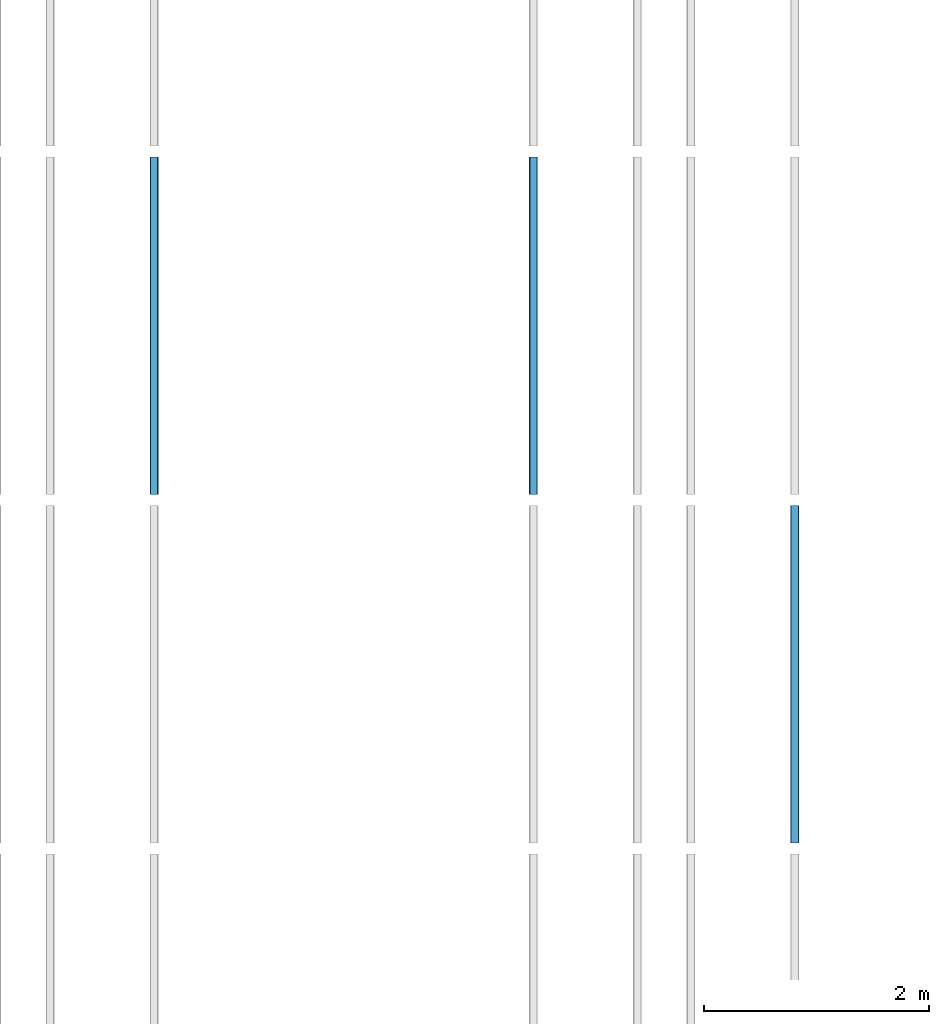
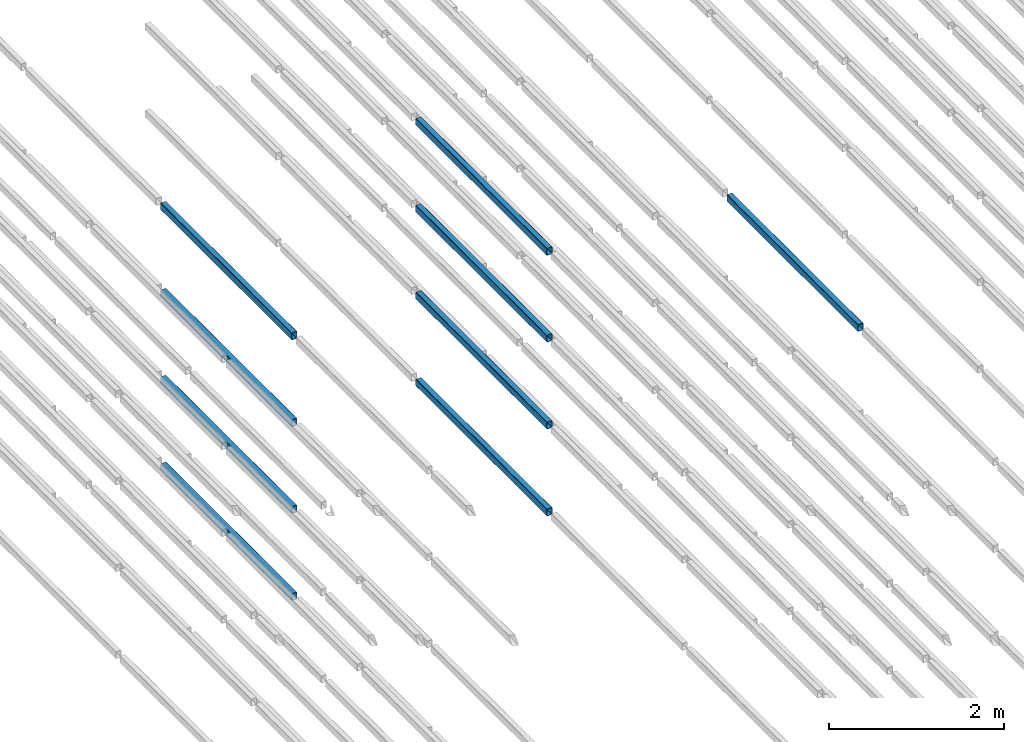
# One storey, part 66 of 290: 9 beams.
"""IFC2X3 building model written with IfcOpenShell, lengths in metres."""

from ifc_helpers import new_model, entity, si_unit, converted_unit, derived_unit, direction, frame, frame_2d, origin, place, context, subcontext, project, spatial, polyline, circle_curve, parameter, trimmed, segment, composite_curve, outline, extrude, material, type_object, element, save


model = new_model("IFC2X3")

# Units and contexts
model_context = context("Model", 3, precision=1e-05, world=origin(), true_north=direction((6.12303176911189e-17, 1.0)))
body_context = subcontext(model_context, "Body", "Model", "MODEL_VIEW")
ifc_project = project(units=[si_unit("LENGTHUNIT", "METRE"), si_unit("AREAUNIT", "SQUARE_METRE"), si_unit("VOLUMEUNIT", "CUBIC_METRE"), converted_unit("PLANEANGLEUNIT", "DEGREE", entity("IfcRatioMeasure", 0.0174532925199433), si_unit("PLANEANGLEUNIT", "RADIAN"), dimensions=[0, 0, 0, 0, 0, 0, 0]), si_unit("MASSUNIT", "GRAM", prefix="KILO"), derived_unit("MASSDENSITYUNIT", [(si_unit("MASSUNIT", "GRAM", prefix="KILO"), 1), (si_unit("LENGTHUNIT", "METRE"), -3)]), derived_unit("MOMENTOFINERTIAUNIT", [(si_unit("LENGTHUNIT", "METRE"), 4)]), si_unit("TIMEUNIT", "SECOND"), si_unit("FREQUENCYUNIT", "HERTZ"), si_unit("THERMODYNAMICTEMPERATUREUNIT", "DEGREE_CELSIUS"), derived_unit("THERMALTRANSMITTANCEUNIT", [(si_unit("MASSUNIT", "GRAM", prefix="KILO"), 1), (si_unit("THERMODYNAMICTEMPERATUREUNIT", "KELVIN"), -1), (si_unit("TIMEUNIT", "SECOND"), -3)]), derived_unit("VOLUMETRICFLOWRATEUNIT", [(si_unit("LENGTHUNIT", "METRE"), 3), (si_unit("TIMEUNIT", "SECOND"), -1)]), si_unit("ELECTRICCURRENTUNIT", "AMPERE"), si_unit("ELECTRICVOLTAGEUNIT", "VOLT"), si_unit("POWERUNIT", "WATT"), si_unit("FORCEUNIT", "NEWTON", prefix="KILO"), si_unit("ILLUMINANCEUNIT", "LUX"), si_unit("LUMINOUSFLUXUNIT", "LUMEN"), si_unit("LUMINOUSINTENSITYUNIT", "CANDELA"), derived_unit("USERDEFINED", [(si_unit("MASSUNIT", "GRAM", prefix="KILO"), -1), (si_unit("LENGTHUNIT", "METRE"), -2), (si_unit("TIMEUNIT", "SECOND"), 3), (si_unit("LUMINOUSFLUXUNIT", "LUMEN"), 1)]), derived_unit("LINEARVELOCITYUNIT", [(si_unit("LENGTHUNIT", "METRE"), 1), (si_unit("TIMEUNIT", "SECOND"), -1)]), si_unit("PRESSUREUNIT", "PASCAL"), derived_unit("USERDEFINED", [(si_unit("LENGTHUNIT", "METRE"), -2), (si_unit("MASSUNIT", "GRAM", prefix="KILO"), 1), (si_unit("TIMEUNIT", "SECOND"), -2)]), derived_unit("LINEARFORCEUNIT", [(si_unit("MASSUNIT", "GRAM", prefix="KILO"), 1), (si_unit("LENGTHUNIT", "METRE"), 1), (si_unit("TIMEUNIT", "SECOND"), -2), (si_unit("LENGTHUNIT", "METRE"), -1)]), derived_unit("PLANARFORCEUNIT", [(si_unit("MASSUNIT", "GRAM", prefix="KILO"), 1), (si_unit("LENGTHUNIT", "METRE"), 1), (si_unit("TIMEUNIT", "SECOND"), -2), (si_unit("LENGTHUNIT", "METRE"), -2)])], contexts=[model_context])

# Site, building, storey
site_placement = place(None, origin())
site = spatial("IfcSite", under=ifc_project, at=site_placement, Name="Default", CompositionType="ELEMENT")
building_placement = place(site_placement, origin())
building = spatial("IfcBuilding", under=site, at=building_placement, CompositionType="ELEMENT")
storey_placement = place(building_placement, frame((0.0, 0.0, 4.0)))
storey = spatial("IfcBuildingStorey", under=building, at=storey_placement, Name="01_OG", CompositionType="ELEMENT", Elevation=4.0)

# Beams
ifc_material = material(Name="Metall - Baustahl S235 blau")
beam_type = type_object("IfcBeamType", Name="RHS Träger (EN 10219-2):RHS 100 x 75 x 5", PredefinedType="NOTDEFINED")
beam_1_placement = place(storey_placement, frame((-188.465111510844, 39.548088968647, 2.445), z_axis=(0.0, 0.0, 1.0), x_axis=(0.0, 1.0, 0.0)))
element("IfcBeam", 1, at=beam_1_placement, inside=storey, type_object=beam_type, material=ifc_material, Name="RHS Träger (EN 10219-2):RHS 100 x 75 x 5", ObjectType="RHS Träger (EN 10219-2):RHS 100 x 75 x 5", context=body_context, shape_type="SweptSolid", body=[
    extrude(outline(composite_curve([segment(polyline([(-0.0399999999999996, -0.0374999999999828), (0.0399999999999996, -0.0374999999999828)]), True, "CONTINUOUS"), segment(trimmed(circle_curve(frame_2d((0.0399999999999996, -0.0274999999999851), x_axis=(0.0, 1.0)), 0.01), [parameter(180.0)], [parameter(270.0)], True, "PARAMETER"), True, "CONTINUOUS"), segment(polyline([(0.0500000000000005, -0.0274999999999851), (0.0500000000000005, 0.0274999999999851)]), True, "CONTINUOUS"), segment(trimmed(circle_curve(frame_2d((0.0399999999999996, 0.0274999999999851), x_axis=(0.0, 1.0)), 0.01), [parameter(270.0)], [parameter(4.07110999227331e-13)], True, "PARAMETER"), True, "CONTINUOUS"), segment(polyline([(0.0399999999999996, 0.0375000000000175), (-0.0399999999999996, 0.0375000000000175)]), True, "CONTINUOUS"), segment(trimmed(circle_curve(frame_2d((-0.0399999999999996, 0.0274999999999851), x_axis=(0.0, 1.0)), 0.01), [parameter(360.0)], [parameter(90.0000000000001)], True, "PARAMETER"), True, "CONTINUOUS"), segment(polyline([(-0.0499999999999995, 0.0274999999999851), (-0.0499999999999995, -0.0274999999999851)]), True, "CONTINUOUS"), segment(trimmed(circle_curve(frame_2d((-0.0399999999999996, -0.0274999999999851), x_axis=(0.0, 1.0)), 0.01), [parameter(90.0000000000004)], [parameter(180.0)], True, "PARAMETER"), True, "CONTINUOUS")], self_intersect=False), holes=[composite_curve([segment(trimmed(circle_curve(frame_2d((-0.0400000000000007, 0.0274999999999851), x_axis=(0.0, 1.0)), 0.005), [parameter(360.0)], [parameter(89.9999999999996)], True, "PARAMETER"), False, "CONTINUOUS"), segment(polyline([(-0.0400000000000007, 0.0325000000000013), (0.0399999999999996, 0.0325000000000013)]), True, "CONTINUOUS"), segment(trimmed(circle_curve(frame_2d((0.0399999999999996, 0.0274999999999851), x_axis=(0.0, 1.0)), 0.005), [parameter(270.0)], [parameter(0.0)], True, "PARAMETER"), False, "CONTINUOUS"), segment(polyline([(0.0449999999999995, 0.0274999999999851), (0.0449999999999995, -0.0274999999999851)]), True, "CONTINUOUS"), segment(trimmed(circle_curve(frame_2d((0.0399999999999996, -0.0274999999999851), x_axis=(0.0, 1.0)), 0.005), [parameter(180.0)], [parameter(269.999999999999)], True, "PARAMETER"), False, "CONTINUOUS"), segment(polyline([(0.0399999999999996, -0.0325000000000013), (-0.0400000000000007, -0.0325000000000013)]), True, "CONTINUOUS"), segment(trimmed(circle_curve(frame_2d((-0.0400000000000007, -0.0274999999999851), x_axis=(0.0, 1.0)), 0.005), [parameter(90.0000000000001)], [parameter(180.0)], True, "PARAMETER"), False, "CONTINUOUS"), segment(polyline([(-0.0450000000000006, -0.0274999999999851), (-0.0450000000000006, 0.0274999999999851)]), True, "CONTINUOUS")], self_intersect=False)]), frame((0.000100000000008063, -0.0375000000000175, -0.0500000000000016), z_axis=(1.0, 0.0, 0.0), x_axis=(0.0, 0.0, -1.0)), (0.0, 0.0, 1.0), 2.99979999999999),
])
beam_2_placement = place(storey_placement, frame((-194.165111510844, 42.648088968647, -1.2), z_axis=(0.0, 0.0, 1.0), x_axis=(0.0, 1.0, 0.0)))
element("IfcBeam", 2, at=beam_2_placement, inside=storey, type_object=beam_type, material=ifc_material, Name="RHS Träger (EN 10219-2):RHS 100 x 75 x 5", ObjectType="RHS Träger (EN 10219-2):RHS 100 x 75 x 5", context=body_context, shape_type="SweptSolid", body=[
    extrude(outline(composite_curve([segment(polyline([(-0.0400000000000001, -0.0374999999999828), (0.0400000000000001, -0.0374999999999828)]), True, "CONTINUOUS"), segment(trimmed(circle_curve(frame_2d((0.0400000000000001, -0.0274999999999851), x_axis=(0.0, 1.0)), 0.01), [parameter(180.0)], [parameter(270.0)], True, "PARAMETER"), True, "CONTINUOUS"), segment(polyline([(0.05, -0.0274999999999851), (0.05, 0.0274999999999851)]), True, "CONTINUOUS"), segment(trimmed(circle_curve(frame_2d((0.0400000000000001, 0.0274999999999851), x_axis=(0.0, 1.0)), 0.01), [parameter(270.0)], [parameter(4.07110999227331e-13)], True, "PARAMETER"), True, "CONTINUOUS"), segment(polyline([(0.0400000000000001, 0.0375000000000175), (-0.0400000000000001, 0.0375000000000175)]), True, "CONTINUOUS"), segment(trimmed(circle_curve(frame_2d((-0.0400000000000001, 0.0274999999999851), x_axis=(0.0, 1.0)), 0.01), [parameter(360.0)], [parameter(90.0000000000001)], True, "PARAMETER"), True, "CONTINUOUS"), segment(polyline([(-0.05, 0.0274999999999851), (-0.05, -0.0274999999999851)]), True, "CONTINUOUS"), segment(trimmed(circle_curve(frame_2d((-0.0400000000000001, -0.0274999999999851), x_axis=(0.0, 1.0)), 0.01), [parameter(90.0000000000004)], [parameter(180.0)], True, "PARAMETER"), True, "CONTINUOUS")], self_intersect=False), holes=[composite_curve([segment(trimmed(circle_curve(frame_2d((-0.0400000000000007, 0.0274999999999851), x_axis=(0.0, 1.0)), 0.005), [parameter(360.0)], [parameter(89.9999999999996)], True, "PARAMETER"), False, "CONTINUOUS"), segment(polyline([(-0.0400000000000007, 0.0325000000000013), (0.039999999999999, 0.0325000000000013)]), True, "CONTINUOUS"), segment(trimmed(circle_curve(frame_2d((0.039999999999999, 0.0274999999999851), x_axis=(0.0, 1.0)), 0.005), [parameter(270.0)], [parameter(0.0)], True, "PARAMETER"), False, "CONTINUOUS"), segment(polyline([(0.044999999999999, 0.0274999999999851), (0.044999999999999, -0.0274999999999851)]), True, "CONTINUOUS"), segment(trimmed(circle_curve(frame_2d((0.039999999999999, -0.0274999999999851), x_axis=(0.0, 1.0)), 0.005), [parameter(180.0)], [parameter(269.999999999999)], True, "PARAMETER"), False, "CONTINUOUS"), segment(polyline([(0.039999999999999, -0.0325000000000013), (-0.0400000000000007, -0.0325000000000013)]), True, "CONTINUOUS"), segment(trimmed(circle_curve(frame_2d((-0.0400000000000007, -0.0274999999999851), x_axis=(0.0, 1.0)), 0.005), [parameter(90.0000000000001)], [parameter(180.0)], True, "PARAMETER"), False, "CONTINUOUS"), segment(polyline([(-0.0450000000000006, -0.0274999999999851), (-0.0450000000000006, 0.0274999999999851)]), True, "CONTINUOUS")], self_intersect=False)]), frame((9.99999999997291e-05, -0.0375000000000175, -0.0500000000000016), z_axis=(1.0, 0.0, 0.0), x_axis=(0.0, 0.0, -1.0)), (0.0, 0.0, 1.0), 2.99979999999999),
])
beam_3_placement = place(storey_placement, frame((-194.165111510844, 42.648088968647, 0.0150000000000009), z_axis=(0.0, 0.0, 1.0), x_axis=(0.0, 1.0, 0.0)))
element("IfcBeam", 3, at=beam_3_placement, inside=storey, type_object=beam_type, material=ifc_material, Name="RHS Träger (EN 10219-2):RHS 100 x 75 x 5", ObjectType="RHS Träger (EN 10219-2):RHS 100 x 75 x 5", context=body_context, shape_type="SweptSolid", body=[
    extrude(outline(composite_curve([segment(polyline([(-0.0400000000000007, -0.0374999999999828), (0.0399999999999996, -0.0374999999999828)]), True, "CONTINUOUS"), segment(trimmed(circle_curve(frame_2d((0.0399999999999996, -0.0274999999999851), x_axis=(0.0, 1.0)), 0.01), [parameter(180.0)], [parameter(270.0)], True, "PARAMETER"), True, "CONTINUOUS"), segment(polyline([(0.0499999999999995, -0.0274999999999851), (0.0499999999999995, 0.0274999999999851)]), True, "CONTINUOUS"), segment(trimmed(circle_curve(frame_2d((0.0399999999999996, 0.0274999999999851), x_axis=(0.0, 1.0)), 0.01), [parameter(270.0)], [parameter(4.07110999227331e-13)], True, "PARAMETER"), True, "CONTINUOUS"), segment(polyline([(0.0399999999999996, 0.0375000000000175), (-0.0400000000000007, 0.0375000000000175)]), True, "CONTINUOUS"), segment(trimmed(circle_curve(frame_2d((-0.0400000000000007, 0.0274999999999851), x_axis=(0.0, 1.0)), 0.01), [parameter(360.0)], [parameter(90.0000000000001)], True, "PARAMETER"), True, "CONTINUOUS"), segment(polyline([(-0.0500000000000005, 0.0274999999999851), (-0.0500000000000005, -0.0274999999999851)]), True, "CONTINUOUS"), segment(trimmed(circle_curve(frame_2d((-0.0400000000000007, -0.0274999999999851), x_axis=(0.0, 1.0)), 0.01), [parameter(90.0000000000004)], [parameter(180.0)], True, "PARAMETER"), True, "CONTINUOUS")], self_intersect=False), holes=[composite_curve([segment(trimmed(circle_curve(frame_2d((-0.0400000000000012, 0.0274999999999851), x_axis=(0.0, 1.0)), 0.005), [parameter(360.0)], [parameter(89.9999999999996)], True, "PARAMETER"), False, "CONTINUOUS"), segment(polyline([(-0.0400000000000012, 0.0325000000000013), (0.0399999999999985, 0.0325000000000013)]), True, "CONTINUOUS"), segment(trimmed(circle_curve(frame_2d((0.0399999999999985, 0.0274999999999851), x_axis=(0.0, 1.0)), 0.005), [parameter(270.0)], [parameter(0.0)], True, "PARAMETER"), False, "CONTINUOUS"), segment(polyline([(0.0449999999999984, 0.0274999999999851), (0.0449999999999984, -0.0274999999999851)]), True, "CONTINUOUS"), segment(trimmed(circle_curve(frame_2d((0.0399999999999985, -0.0274999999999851), x_axis=(0.0, 1.0)), 0.005), [parameter(180.0)], [parameter(269.999999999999)], True, "PARAMETER"), False, "CONTINUOUS"), segment(polyline([(0.0399999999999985, -0.0325000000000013), (-0.0400000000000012, -0.0325000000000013)]), True, "CONTINUOUS"), segment(trimmed(circle_curve(frame_2d((-0.0400000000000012, -0.0274999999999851), x_axis=(0.0, 1.0)), 0.005), [parameter(90.0000000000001)], [parameter(180.0)], True, "PARAMETER"), False, "CONTINUOUS"), segment(polyline([(-0.0450000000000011, -0.0274999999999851), (-0.0450000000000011, 0.0274999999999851)]), True, "CONTINUOUS")], self_intersect=False)]), frame((9.99999999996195e-05, -0.0375000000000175, -0.0500000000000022), z_axis=(1.0, 0.0, 0.0), x_axis=(0.0, 0.0, -1.0)), (0.0, 0.0, 1.0), 2.99979999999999),
])
beam_4_placement = place(storey_placement, frame((-194.165111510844, 42.648088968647, 1.23), z_axis=(0.0, 0.0, 1.0), x_axis=(0.0, 1.0, 0.0)))
element("IfcBeam", 4, at=beam_4_placement, inside=storey, type_object=beam_type, material=ifc_material, Name="RHS Träger (EN 10219-2):RHS 100 x 75 x 5", ObjectType="RHS Träger (EN 10219-2):RHS 100 x 75 x 5", context=body_context, shape_type="SweptSolid", body=[
    extrude(outline(composite_curve([segment(polyline([(-0.0399999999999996, -0.0374999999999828), (0.0399999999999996, -0.0374999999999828)]), True, "CONTINUOUS"), segment(trimmed(circle_curve(frame_2d((0.0399999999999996, -0.0274999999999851), x_axis=(0.0, 1.0)), 0.01), [parameter(180.0)], [parameter(270.0)], True, "PARAMETER"), True, "CONTINUOUS"), segment(polyline([(0.0500000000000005, -0.0274999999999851), (0.0500000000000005, 0.0274999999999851)]), True, "CONTINUOUS"), segment(trimmed(circle_curve(frame_2d((0.0399999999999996, 0.0274999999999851), x_axis=(0.0, 1.0)), 0.01), [parameter(270.0)], [parameter(4.07110999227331e-13)], True, "PARAMETER"), True, "CONTINUOUS"), segment(polyline([(0.0399999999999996, 0.0375000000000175), (-0.0399999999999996, 0.0375000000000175)]), True, "CONTINUOUS"), segment(trimmed(circle_curve(frame_2d((-0.0399999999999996, 0.0274999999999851), x_axis=(0.0, 1.0)), 0.01), [parameter(360.0)], [parameter(90.0000000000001)], True, "PARAMETER"), True, "CONTINUOUS"), segment(polyline([(-0.0499999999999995, 0.0274999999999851), (-0.0499999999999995, -0.0274999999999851)]), True, "CONTINUOUS"), segment(trimmed(circle_curve(frame_2d((-0.0399999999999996, -0.0274999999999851), x_axis=(0.0, 1.0)), 0.01), [parameter(90.0000000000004)], [parameter(180.0)], True, "PARAMETER"), True, "CONTINUOUS")], self_intersect=False), holes=[composite_curve([segment(trimmed(circle_curve(frame_2d((-0.0400000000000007, 0.0274999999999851), x_axis=(0.0, 1.0)), 0.005), [parameter(360.0)], [parameter(89.9999999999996)], True, "PARAMETER"), False, "CONTINUOUS"), segment(polyline([(-0.0400000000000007, 0.0325000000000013), (0.0399999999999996, 0.0325000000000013)]), True, "CONTINUOUS"), segment(trimmed(circle_curve(frame_2d((0.0399999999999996, 0.0274999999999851), x_axis=(0.0, 1.0)), 0.005), [parameter(270.0)], [parameter(0.0)], True, "PARAMETER"), False, "CONTINUOUS"), segment(polyline([(0.0449999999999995, 0.0274999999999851), (0.0449999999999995, -0.0274999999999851)]), True, "CONTINUOUS"), segment(trimmed(circle_curve(frame_2d((0.0399999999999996, -0.0274999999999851), x_axis=(0.0, 1.0)), 0.005), [parameter(180.0)], [parameter(269.999999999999)], True, "PARAMETER"), False, "CONTINUOUS"), segment(polyline([(0.0399999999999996, -0.0325000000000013), (-0.0400000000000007, -0.0325000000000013)]), True, "CONTINUOUS"), segment(trimmed(circle_curve(frame_2d((-0.0400000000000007, -0.0274999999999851), x_axis=(0.0, 1.0)), 0.005), [parameter(90.0000000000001)], [parameter(180.0)], True, "PARAMETER"), False, "CONTINUOUS"), segment(polyline([(-0.0450000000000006, -0.0274999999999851), (-0.0450000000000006, 0.0274999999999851)]), True, "CONTINUOUS")], self_intersect=False)]), frame((9.99999999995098e-05, -0.0375000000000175, -0.0500000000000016), z_axis=(1.0, 0.0, 0.0), x_axis=(0.0, 0.0, -1.0)), (0.0, 0.0, 1.0), 2.99979999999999),
])
beam_5_placement = place(storey_placement, frame((-194.165111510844, 42.648088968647, 2.445), z_axis=(0.0, 0.0, 1.0), x_axis=(0.0, 1.0, 0.0)))
element("IfcBeam", 5, at=beam_5_placement, inside=storey, type_object=beam_type, material=ifc_material, Name="RHS Träger (EN 10219-2):RHS 100 x 75 x 5", ObjectType="RHS Träger (EN 10219-2):RHS 100 x 75 x 5", context=body_context, shape_type="SweptSolid", body=[
    extrude(outline(composite_curve([segment(polyline([(-0.0399999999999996, -0.0374999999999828), (0.0399999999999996, -0.0374999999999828)]), True, "CONTINUOUS"), segment(trimmed(circle_curve(frame_2d((0.0399999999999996, -0.0274999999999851), x_axis=(0.0, 1.0)), 0.01), [parameter(180.0)], [parameter(270.0)], True, "PARAMETER"), True, "CONTINUOUS"), segment(polyline([(0.0500000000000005, -0.0274999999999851), (0.0500000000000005, 0.0274999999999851)]), True, "CONTINUOUS"), segment(trimmed(circle_curve(frame_2d((0.0399999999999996, 0.0274999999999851), x_axis=(0.0, 1.0)), 0.01), [parameter(270.0)], [parameter(4.07110999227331e-13)], True, "PARAMETER"), True, "CONTINUOUS"), segment(polyline([(0.0399999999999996, 0.0375000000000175), (-0.0399999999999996, 0.0375000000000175)]), True, "CONTINUOUS"), segment(trimmed(circle_curve(frame_2d((-0.0399999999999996, 0.0274999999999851), x_axis=(0.0, 1.0)), 0.01), [parameter(360.0)], [parameter(90.0000000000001)], True, "PARAMETER"), True, "CONTINUOUS"), segment(polyline([(-0.0499999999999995, 0.0274999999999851), (-0.0499999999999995, -0.0274999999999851)]), True, "CONTINUOUS"), segment(trimmed(circle_curve(frame_2d((-0.0399999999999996, -0.0274999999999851), x_axis=(0.0, 1.0)), 0.01), [parameter(90.0000000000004)], [parameter(180.0)], True, "PARAMETER"), True, "CONTINUOUS")], self_intersect=False), holes=[composite_curve([segment(trimmed(circle_curve(frame_2d((-0.0400000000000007, 0.0274999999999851), x_axis=(0.0, 1.0)), 0.005), [parameter(360.0)], [parameter(89.9999999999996)], True, "PARAMETER"), False, "CONTINUOUS"), segment(polyline([(-0.0400000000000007, 0.0325000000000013), (0.0399999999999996, 0.0325000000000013)]), True, "CONTINUOUS"), segment(trimmed(circle_curve(frame_2d((0.0399999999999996, 0.0274999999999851), x_axis=(0.0, 1.0)), 0.005), [parameter(270.0)], [parameter(0.0)], True, "PARAMETER"), False, "CONTINUOUS"), segment(polyline([(0.0449999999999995, 0.0274999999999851), (0.0449999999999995, -0.0274999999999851)]), True, "CONTINUOUS"), segment(trimmed(circle_curve(frame_2d((0.0399999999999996, -0.0274999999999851), x_axis=(0.0, 1.0)), 0.005), [parameter(180.0)], [parameter(269.999999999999)], True, "PARAMETER"), False, "CONTINUOUS"), segment(polyline([(0.0399999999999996, -0.0325000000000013), (-0.0400000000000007, -0.0325000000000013)]), True, "CONTINUOUS"), segment(trimmed(circle_curve(frame_2d((-0.0400000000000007, -0.0274999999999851), x_axis=(0.0, 1.0)), 0.005), [parameter(90.0000000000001)], [parameter(180.0)], True, "PARAMETER"), False, "CONTINUOUS"), segment(polyline([(-0.0450000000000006, -0.0274999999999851), (-0.0450000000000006, 0.0274999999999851)]), True, "CONTINUOUS")], self_intersect=False)]), frame((9.99999999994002e-05, -0.0375000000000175, -0.0500000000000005), z_axis=(1.0, 0.0, 0.0), x_axis=(0.0, 0.0, -1.0)), (0.0, 0.0, 1.0), 2.99979999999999),
])
beam_6_placement = place(storey_placement, frame((-190.715111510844, 42.648088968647, -1.2), z_axis=(0.0, 0.0, 1.0), x_axis=(0.0, 1.0, 0.0)))
element("IfcBeam", 6, at=beam_6_placement, inside=storey, type_object=beam_type, material=ifc_material, Name="RHS Träger (EN 10219-2):RHS 100 x 75 x 5", ObjectType="RHS Träger (EN 10219-2):RHS 100 x 75 x 5", context=body_context, shape_type="SweptSolid", body=[
    extrude(outline(composite_curve([segment(trimmed(circle_curve(frame_2d((-0.0274999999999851, -0.0400000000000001), x_axis=(1.0, 0.0)), 0.01), [parameter(180.0)], [parameter(270.0)], True, "PARAMETER"), True, "CONTINUOUS"), segment(polyline([(-0.0274999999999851, -0.05), (0.0274999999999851, -0.05)]), True, "CONTINUOUS"), segment(trimmed(circle_curve(frame_2d((0.0274999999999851, -0.0400000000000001), x_axis=(1.0, 0.0)), 0.01), [parameter(270.0)], [parameter(5.08888749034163e-14)], True, "PARAMETER"), True, "CONTINUOUS"), segment(polyline([(0.0375000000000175, -0.0400000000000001), (0.0375000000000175, 0.0400000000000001)]), True, "CONTINUOUS"), segment(trimmed(circle_curve(frame_2d((0.0274999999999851, 0.0400000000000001), x_axis=(1.0, 0.0)), 0.01), [parameter(360.0)], [parameter(89.9999999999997)], True, "PARAMETER"), True, "CONTINUOUS"), segment(polyline([(0.0274999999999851, 0.05), (-0.0274999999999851, 0.05)]), True, "CONTINUOUS"), segment(trimmed(circle_curve(frame_2d((-0.0274999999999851, 0.0400000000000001), x_axis=(1.0, 0.0)), 0.01), [parameter(90.0000000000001)], [parameter(180.0)], True, "PARAMETER"), True, "CONTINUOUS"), segment(polyline([(-0.0374999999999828, 0.0400000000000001), (-0.0374999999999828, -0.0400000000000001)]), True, "CONTINUOUS")], self_intersect=False), holes=[composite_curve([segment(polyline([(0.0274999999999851, -0.0450000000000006), (-0.0274999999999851, -0.0450000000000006)]), True, "CONTINUOUS"), segment(trimmed(circle_curve(frame_2d((-0.0274999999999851, -0.0400000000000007), x_axis=(1.0, 0.0)), 0.005), [parameter(180.0)], [parameter(270.0)], True, "PARAMETER"), False, "CONTINUOUS"), segment(polyline([(-0.0325000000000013, -0.0400000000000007), (-0.0325000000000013, 0.039999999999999)]), True, "CONTINUOUS"), segment(trimmed(circle_curve(frame_2d((-0.0274999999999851, 0.039999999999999), x_axis=(1.0, 0.0)), 0.005), [parameter(90.0000000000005)], [parameter(180.0)], True, "PARAMETER"), False, "CONTINUOUS"), segment(polyline([(-0.0274999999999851, 0.044999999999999), (0.0274999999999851, 0.044999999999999)]), True, "CONTINUOUS"), segment(trimmed(circle_curve(frame_2d((0.0274999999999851, 0.039999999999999), x_axis=(1.0, 0.0)), 0.005), [parameter(0.0)], [parameter(90.0000000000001)], True, "PARAMETER"), False, "CONTINUOUS"), segment(polyline([(0.0325000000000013, 0.039999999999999), (0.0325000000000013, -0.0400000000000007)]), True, "CONTINUOUS"), segment(trimmed(circle_curve(frame_2d((0.0274999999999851, -0.0400000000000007), x_axis=(1.0, 0.0)), 0.005), [parameter(270.0)], [parameter(4.07110999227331e-13)], True, "PARAMETER"), False, "CONTINUOUS")], self_intersect=False)]), frame((0.000100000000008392, 0.0375000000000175, -0.0500000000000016), z_axis=(1.0, 0.0, 0.0), x_axis=(0.0, -1.0, 0.0)), (0.0, 0.0, 1.0), 2.99979999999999),
])
beam_7_placement = place(storey_placement, frame((-190.715111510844, 42.648088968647, 0.0150000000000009), z_axis=(0.0, 0.0, 1.0), x_axis=(0.0, 1.0, 0.0)))
element("IfcBeam", 7, at=beam_7_placement, inside=storey, type_object=beam_type, material=ifc_material, Name="RHS Träger (EN 10219-2):RHS 100 x 75 x 5", ObjectType="RHS Träger (EN 10219-2):RHS 100 x 75 x 5", context=body_context, shape_type="SweptSolid", body=[
    extrude(outline(composite_curve([segment(trimmed(circle_curve(frame_2d((-0.0274999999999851, -0.0400000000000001), x_axis=(1.0, 0.0)), 0.01), [parameter(180.0)], [parameter(270.0)], True, "PARAMETER"), True, "CONTINUOUS"), segment(polyline([(-0.0274999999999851, -0.05), (0.0274999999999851, -0.05)]), True, "CONTINUOUS"), segment(trimmed(circle_curve(frame_2d((0.0274999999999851, -0.0400000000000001), x_axis=(1.0, 0.0)), 0.01), [parameter(270.0)], [parameter(5.08888749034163e-14)], True, "PARAMETER"), True, "CONTINUOUS"), segment(polyline([(0.0375000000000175, -0.0400000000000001), (0.0375000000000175, 0.0400000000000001)]), True, "CONTINUOUS"), segment(trimmed(circle_curve(frame_2d((0.0274999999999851, 0.0400000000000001), x_axis=(1.0, 0.0)), 0.01), [parameter(360.0)], [parameter(89.9999999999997)], True, "PARAMETER"), True, "CONTINUOUS"), segment(polyline([(0.0274999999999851, 0.05), (-0.0274999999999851, 0.05)]), True, "CONTINUOUS"), segment(trimmed(circle_curve(frame_2d((-0.0274999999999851, 0.0400000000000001), x_axis=(1.0, 0.0)), 0.01), [parameter(90.0000000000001)], [parameter(180.0)], True, "PARAMETER"), True, "CONTINUOUS"), segment(polyline([(-0.0374999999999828, 0.0400000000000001), (-0.0374999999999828, -0.0400000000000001)]), True, "CONTINUOUS")], self_intersect=False), holes=[composite_curve([segment(polyline([(0.0274999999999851, -0.0450000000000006), (-0.0274999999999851, -0.0450000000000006)]), True, "CONTINUOUS"), segment(trimmed(circle_curve(frame_2d((-0.0274999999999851, -0.0400000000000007), x_axis=(1.0, 0.0)), 0.005), [parameter(180.0)], [parameter(270.0)], True, "PARAMETER"), False, "CONTINUOUS"), segment(polyline([(-0.0325000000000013, -0.0400000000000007), (-0.0325000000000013, 0.039999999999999)]), True, "CONTINUOUS"), segment(trimmed(circle_curve(frame_2d((-0.0274999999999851, 0.039999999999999), x_axis=(1.0, 0.0)), 0.005), [parameter(90.0000000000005)], [parameter(180.0)], True, "PARAMETER"), False, "CONTINUOUS"), segment(polyline([(-0.0274999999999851, 0.044999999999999), (0.0274999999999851, 0.044999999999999)]), True, "CONTINUOUS"), segment(trimmed(circle_curve(frame_2d((0.0274999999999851, 0.039999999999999), x_axis=(1.0, 0.0)), 0.005), [parameter(0.0)], [parameter(90.0000000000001)], True, "PARAMETER"), False, "CONTINUOUS"), segment(polyline([(0.0325000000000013, 0.039999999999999), (0.0325000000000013, -0.0400000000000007)]), True, "CONTINUOUS"), segment(trimmed(circle_curve(frame_2d((0.0274999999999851, -0.0400000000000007), x_axis=(1.0, 0.0)), 0.005), [parameter(270.0)], [parameter(4.07110999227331e-13)], True, "PARAMETER"), False, "CONTINUOUS")], self_intersect=False)]), frame((0.000100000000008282, 0.0375000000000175, -0.0500000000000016), z_axis=(1.0, 0.0, 0.0), x_axis=(0.0, -1.0, 0.0)), (0.0, 0.0, 1.0), 2.99979999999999),
])
beam_8_placement = place(storey_placement, frame((-190.715111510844, 42.648088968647, 1.23), z_axis=(0.0, 0.0, 1.0), x_axis=(0.0, 1.0, 0.0)))
element("IfcBeam", 8, at=beam_8_placement, inside=storey, type_object=beam_type, material=ifc_material, Name="RHS Träger (EN 10219-2):RHS 100 x 75 x 5", ObjectType="RHS Träger (EN 10219-2):RHS 100 x 75 x 5", context=body_context, shape_type="SweptSolid", body=[
    extrude(outline(composite_curve([segment(trimmed(circle_curve(frame_2d((-0.0274999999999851, -0.0399999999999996), x_axis=(1.0, 0.0)), 0.01), [parameter(180.0)], [parameter(270.0)], True, "PARAMETER"), True, "CONTINUOUS"), segment(polyline([(-0.0274999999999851, -0.0499999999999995), (0.0274999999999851, -0.0499999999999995)]), True, "CONTINUOUS"), segment(trimmed(circle_curve(frame_2d((0.0274999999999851, -0.0399999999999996), x_axis=(1.0, 0.0)), 0.01), [parameter(270.0)], [parameter(5.08888749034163e-14)], True, "PARAMETER"), True, "CONTINUOUS"), segment(polyline([(0.0375000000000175, -0.0399999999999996), (0.0375000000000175, 0.0399999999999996)]), True, "CONTINUOUS"), segment(trimmed(circle_curve(frame_2d((0.0274999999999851, 0.0399999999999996), x_axis=(1.0, 0.0)), 0.01), [parameter(360.0)], [parameter(89.9999999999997)], True, "PARAMETER"), True, "CONTINUOUS"), segment(polyline([(0.0274999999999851, 0.0500000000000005), (-0.0274999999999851, 0.0500000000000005)]), True, "CONTINUOUS"), segment(trimmed(circle_curve(frame_2d((-0.0274999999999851, 0.0399999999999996), x_axis=(1.0, 0.0)), 0.01), [parameter(90.0000000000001)], [parameter(180.0)], True, "PARAMETER"), True, "CONTINUOUS"), segment(polyline([(-0.0374999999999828, 0.0399999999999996), (-0.0374999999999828, -0.0399999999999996)]), True, "CONTINUOUS")], self_intersect=False), holes=[composite_curve([segment(polyline([(0.0274999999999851, -0.0450000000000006), (-0.0274999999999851, -0.0450000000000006)]), True, "CONTINUOUS"), segment(trimmed(circle_curve(frame_2d((-0.0274999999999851, -0.0400000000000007), x_axis=(1.0, 0.0)), 0.005), [parameter(180.0)], [parameter(270.0)], True, "PARAMETER"), False, "CONTINUOUS"), segment(polyline([(-0.0325000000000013, -0.0400000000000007), (-0.0325000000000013, 0.0399999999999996)]), True, "CONTINUOUS"), segment(trimmed(circle_curve(frame_2d((-0.0274999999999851, 0.0399999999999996), x_axis=(1.0, 0.0)), 0.005), [parameter(90.0000000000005)], [parameter(180.0)], True, "PARAMETER"), False, "CONTINUOUS"), segment(polyline([(-0.0274999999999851, 0.0449999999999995), (0.0274999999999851, 0.0449999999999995)]), True, "CONTINUOUS"), segment(trimmed(circle_curve(frame_2d((0.0274999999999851, 0.0399999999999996), x_axis=(1.0, 0.0)), 0.005), [parameter(0.0)], [parameter(90.0000000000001)], True, "PARAMETER"), False, "CONTINUOUS"), segment(polyline([(0.0325000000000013, 0.0399999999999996), (0.0325000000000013, -0.0400000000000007)]), True, "CONTINUOUS"), segment(trimmed(circle_curve(frame_2d((0.0274999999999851, -0.0400000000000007), x_axis=(1.0, 0.0)), 0.005), [parameter(270.0)], [parameter(4.07110999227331e-13)], True, "PARAMETER"), False, "CONTINUOUS")], self_intersect=False)]), frame((0.000100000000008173, 0.0375000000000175, -0.0500000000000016), z_axis=(1.0, 0.0, 0.0), x_axis=(0.0, -1.0, 0.0)), (0.0, 0.0, 1.0), 2.99979999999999),
])
beam_9_placement = place(storey_placement, frame((-190.715111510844, 42.648088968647, 2.445), z_axis=(0.0, 0.0, 1.0), x_axis=(0.0, 1.0, 0.0)))
element("IfcBeam", 9, at=beam_9_placement, inside=storey, type_object=beam_type, material=ifc_material, Name="RHS Träger (EN 10219-2):RHS 100 x 75 x 5", ObjectType="RHS Träger (EN 10219-2):RHS 100 x 75 x 5", context=body_context, shape_type="SweptSolid", body=[
    extrude(outline(composite_curve([segment(trimmed(circle_curve(frame_2d((-0.0274999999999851, -0.0399999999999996), x_axis=(1.0, 0.0)), 0.01), [parameter(180.0)], [parameter(270.0)], True, "PARAMETER"), True, "CONTINUOUS"), segment(polyline([(-0.0274999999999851, -0.0499999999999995), (0.0274999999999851, -0.0499999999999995)]), True, "CONTINUOUS"), segment(trimmed(circle_curve(frame_2d((0.0274999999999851, -0.0399999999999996), x_axis=(1.0, 0.0)), 0.01), [parameter(270.0)], [parameter(5.08888749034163e-14)], True, "PARAMETER"), True, "CONTINUOUS"), segment(polyline([(0.0375000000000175, -0.0399999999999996), (0.0375000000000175, 0.0399999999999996)]), True, "CONTINUOUS"), segment(trimmed(circle_curve(frame_2d((0.0274999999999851, 0.0399999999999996), x_axis=(1.0, 0.0)), 0.01), [parameter(360.0)], [parameter(89.9999999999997)], True, "PARAMETER"), True, "CONTINUOUS"), segment(polyline([(0.0274999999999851, 0.0500000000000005), (-0.0274999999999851, 0.0500000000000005)]), True, "CONTINUOUS"), segment(trimmed(circle_curve(frame_2d((-0.0274999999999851, 0.0399999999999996), x_axis=(1.0, 0.0)), 0.01), [parameter(90.0000000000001)], [parameter(180.0)], True, "PARAMETER"), True, "CONTINUOUS"), segment(polyline([(-0.0374999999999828, 0.0399999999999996), (-0.0374999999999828, -0.0399999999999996)]), True, "CONTINUOUS")], self_intersect=False), holes=[composite_curve([segment(polyline([(0.0274999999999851, -0.0450000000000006), (-0.0274999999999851, -0.0450000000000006)]), True, "CONTINUOUS"), segment(trimmed(circle_curve(frame_2d((-0.0274999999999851, -0.0400000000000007), x_axis=(1.0, 0.0)), 0.005), [parameter(180.0)], [parameter(270.0)], True, "PARAMETER"), False, "CONTINUOUS"), segment(polyline([(-0.0325000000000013, -0.0400000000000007), (-0.0325000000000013, 0.0399999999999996)]), True, "CONTINUOUS"), segment(trimmed(circle_curve(frame_2d((-0.0274999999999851, 0.0399999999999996), x_axis=(1.0, 0.0)), 0.005), [parameter(90.0000000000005)], [parameter(180.0)], True, "PARAMETER"), False, "CONTINUOUS"), segment(polyline([(-0.0274999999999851, 0.0449999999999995), (0.0274999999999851, 0.0449999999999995)]), True, "CONTINUOUS"), segment(trimmed(circle_curve(frame_2d((0.0274999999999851, 0.0399999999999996), x_axis=(1.0, 0.0)), 0.005), [parameter(0.0)], [parameter(90.0000000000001)], True, "PARAMETER"), False, "CONTINUOUS"), segment(polyline([(0.0325000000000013, 0.0399999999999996), (0.0325000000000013, -0.0400000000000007)]), True, "CONTINUOUS"), segment(trimmed(circle_curve(frame_2d((0.0274999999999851, -0.0400000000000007), x_axis=(1.0, 0.0)), 0.005), [parameter(270.0)], [parameter(4.07110999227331e-13)], True, "PARAMETER"), False, "CONTINUOUS")], self_intersect=False)]), frame((0.000100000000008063, 0.0375000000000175, -0.0500000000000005), z_axis=(1.0, 0.0, 0.0), x_axis=(0.0, -1.0, 0.0)), (0.0, 0.0, 1.0), 2.99979999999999),
])

save(model, "model.ifc")
